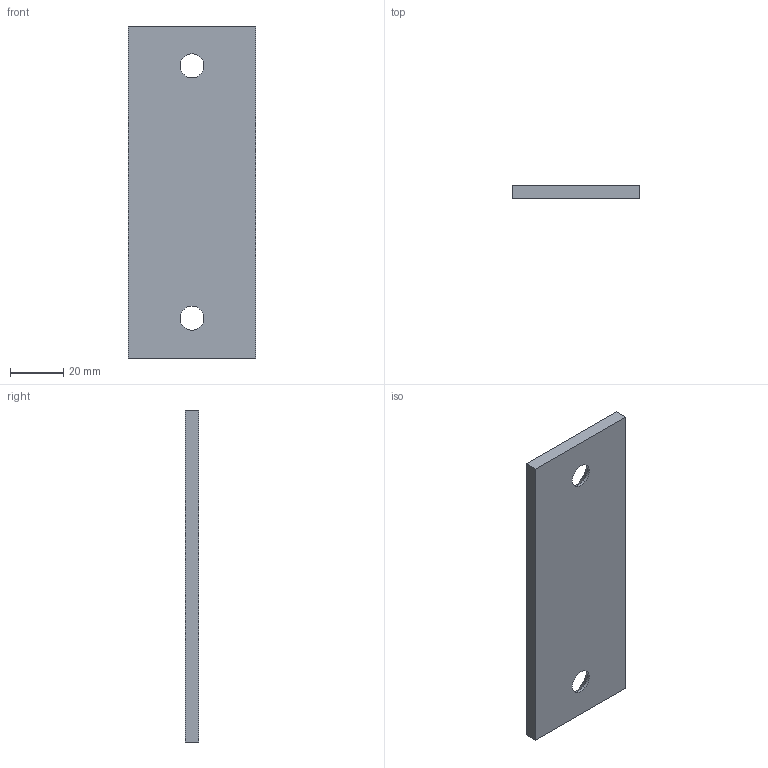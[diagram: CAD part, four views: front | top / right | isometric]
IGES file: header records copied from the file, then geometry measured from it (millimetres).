
Start section: Data from Parasolid IGES Translator 20.0.26, Copyright(c) 2006 Siemens P LM Software. All Rights Reserved.
Global section: file name: P605-01-048-125.igs; native system: By Siemens PLM Incorporated; preprocessor: XPlus GENERIC/IGES 20.0.26; author: Noname; organization: Noname; date: 20190705.145936; units: millimetre
Bounding box: 48 x 5 x 125 mm (x, y, z)
Surface area: 13667.4 mm2 (no closed solid volume)
Topology: 0 solids, 0 shells, 10 faces, 44 edges, 41 vertices
Faces by surface type: extrusion 6, revolution 4
